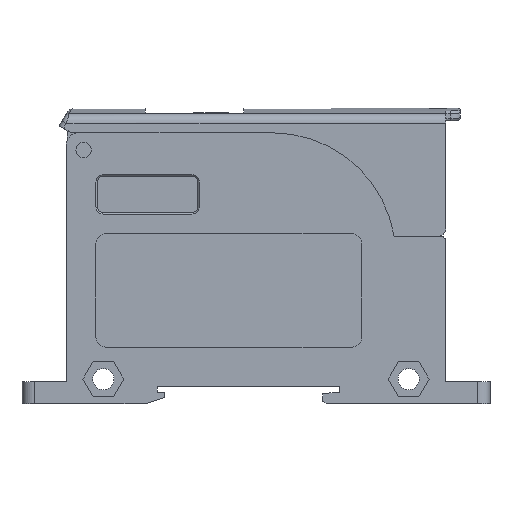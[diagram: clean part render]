
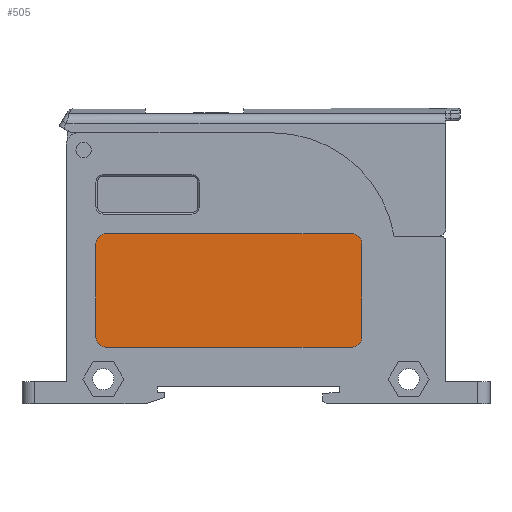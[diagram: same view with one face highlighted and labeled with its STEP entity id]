
A CAD part, left-side view. The second image highlights one B-rep face of the part: STEP entity #505.
In plain terms, the highlighted planar face has unit normal (-1, 0, 0).
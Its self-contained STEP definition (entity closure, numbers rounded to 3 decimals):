
#298=CIRCLE('',#5256,2.);
#299=CIRCLE('',#5257,2.);
#300=CIRCLE('',#5258,2.);
#301=CIRCLE('',#5259,2.);
#505=ADVANCED_FACE('',(#930),#742,.T.);
#742=PLANE('',#5260);
#930=FACE_OUTER_BOUND('',#1199,.T.);
#1199=EDGE_LOOP('',(#2984,#2985,#2986,#2987,#2988,#2989,#2990,#2991));
#1640=LINE('',#7469,#2168);
#1641=LINE('',#7474,#2169);
#1642=LINE('',#7478,#2170);
#1643=LINE('',#7482,#2171);
#2168=VECTOR('',#6057,1.);
#2169=VECTOR('',#6060,1.);
#2170=VECTOR('',#6063,1.);
#2171=VECTOR('',#6066,1.);
#2984=ORIENTED_EDGE('',*,*,#4690,.T.);
#2985=ORIENTED_EDGE('',*,*,#4691,.T.);
#2986=ORIENTED_EDGE('',*,*,#4692,.T.);
#2987=ORIENTED_EDGE('',*,*,#4693,.T.);
#2988=ORIENTED_EDGE('',*,*,#4694,.F.);
#2989=ORIENTED_EDGE('',*,*,#4695,.T.);
#2990=ORIENTED_EDGE('',*,*,#4696,.F.);
#2991=ORIENTED_EDGE('',*,*,#4697,.T.);
#4127=VERTEX_POINT('',#7470);
#4128=VERTEX_POINT('',#7471);
#4129=VERTEX_POINT('',#7473);
#4130=VERTEX_POINT('',#7475);
#4131=VERTEX_POINT('',#7477);
#4132=VERTEX_POINT('',#7479);
#4133=VERTEX_POINT('',#7481);
#4134=VERTEX_POINT('',#7483);
#4690=EDGE_CURVE('',#4127,#4128,#1640,.T.);
#4691=EDGE_CURVE('',#4128,#4129,#298,.T.);
#4692=EDGE_CURVE('',#4129,#4130,#1641,.T.);
#4693=EDGE_CURVE('',#4130,#4131,#299,.T.);
#4694=EDGE_CURVE('',#4132,#4131,#1642,.T.);
#4695=EDGE_CURVE('',#4132,#4133,#300,.T.);
#4696=EDGE_CURVE('',#4134,#4133,#1643,.T.);
#4697=EDGE_CURVE('',#4134,#4127,#301,.T.);
#5256=AXIS2_PLACEMENT_3D('',#7472,#6058,#6059);
#5257=AXIS2_PLACEMENT_3D('',#7476,#6061,#6062);
#5258=AXIS2_PLACEMENT_3D('',#7480,#6064,#6065);
#5259=AXIS2_PLACEMENT_3D('',#7484,#6067,#6068);
#5260=AXIS2_PLACEMENT_3D('',#7485,#6069,#6070);
#6057=DIRECTION('',(0.,1.,0.));
#6058=DIRECTION('',(-1.,0.,0.));
#6059=DIRECTION('',(0.,0.,1.));
#6060=DIRECTION('',(0.,0.,-1.));
#6061=DIRECTION('',(-1.,0.,0.));
#6062=DIRECTION('',(0.,0.,1.));
#6063=DIRECTION('',(0.,1.,0.));
#6064=DIRECTION('',(-1.,0.,0.));
#6065=DIRECTION('',(0.,0.,1.));
#6066=DIRECTION('',(0.,0.,-1.));
#6067=DIRECTION('',(-1.,0.,0.));
#6068=DIRECTION('',(0.,0.,1.));
#6069=DIRECTION('',(-1.,0.,0.));
#6070=DIRECTION('',(0.,0.,1.));
#7469=CARTESIAN_POINT('',(-127.05,38.,20.05));
#7470=CARTESIAN_POINT('',(-127.05,12.5,20.05));
#7471=CARTESIAN_POINT('',(-127.05,62.5,20.05));
#7472=CARTESIAN_POINT('',(-127.05,62.5,18.05));
#7473=CARTESIAN_POINT('',(-127.05,64.5,18.05));
#7474=CARTESIAN_POINT('',(-127.05,64.5,0.));
#7475=CARTESIAN_POINT('',(-127.05,64.5,-0.95));
#7476=CARTESIAN_POINT('',(-127.05,62.5,-0.95));
#7477=CARTESIAN_POINT('',(-127.05,62.5,-2.95));
#7478=CARTESIAN_POINT('',(-127.05,38.,-2.95));
#7479=CARTESIAN_POINT('',(-127.05,12.5,-2.95));
#7480=CARTESIAN_POINT('',(-127.05,12.5,-0.95));
#7481=CARTESIAN_POINT('',(-127.05,10.5,-0.95));
#7482=CARTESIAN_POINT('',(-127.05,10.5,0.));
#7483=CARTESIAN_POINT('',(-127.05,10.5,18.05));
#7484=CARTESIAN_POINT('',(-127.05,12.5,18.05));
#7485=CARTESIAN_POINT('',(-127.05,38.,0.));
